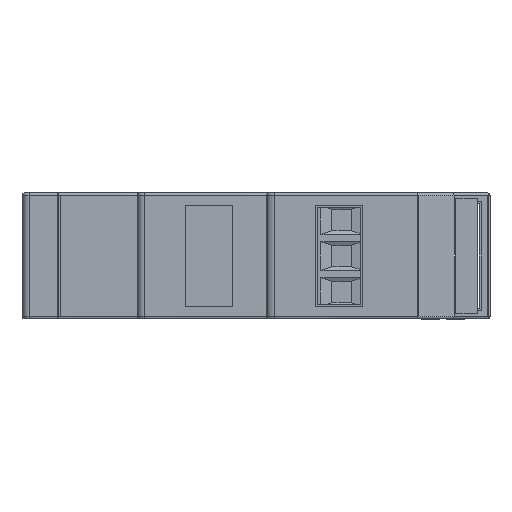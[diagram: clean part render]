
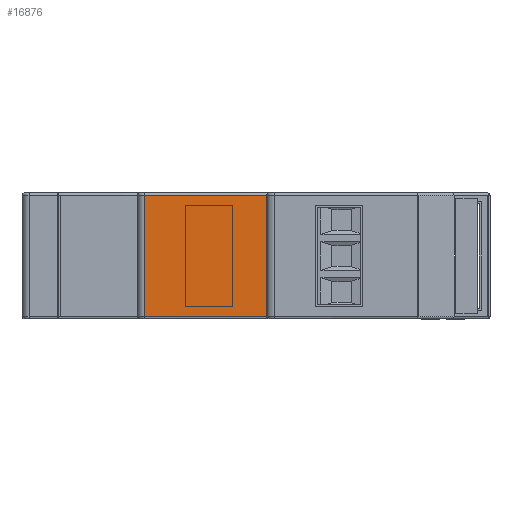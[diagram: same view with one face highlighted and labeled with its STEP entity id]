
A CAD part, left-side view. The second image highlights one B-rep face of the part: STEP entity #16876.
In plain terms, the highlighted planar face has unit normal (-1, 0, 0).
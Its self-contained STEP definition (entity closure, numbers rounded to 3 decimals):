
#11794 = CARTESIAN_POINT ( 'NONE',  ( 11., 31., 0.3 ) ) ;
#11872 = CARTESIAN_POINT ( 'NONE',  ( 11., 48., 0.3 ) ) ;
#11925 = CARTESIAN_POINT ( 'NONE',  ( 11., 48., 17.2 ) ) ;
#11991 = CARTESIAN_POINT ( 'NONE',  ( 11., 31., 17.2 ) ) ;
#16876 = ADVANCED_FACE ( 'NONE', ( #33483 ), #33468, .F. ) ;
#18858 = EDGE_LOOP ( 'NONE', ( #39896, #39892, #39894, #39886 ) ) ;
#20604 = AXIS2_PLACEMENT_3D ( 'NONE', #33493, #33494, #33495 ) ;
#21004 = VECTOR ( 'NONE', #37005, 1000. ) ;
#21095 = VECTOR ( 'NONE', #37262, 1000. ) ;
#21526 = EDGE_CURVE ( 'NONE', #31068, #30898, #36949, .T. ) ;
#21571 = EDGE_CURVE ( 'NONE', #31304, #31181, #37259, .T. ) ;
#22236 = EDGE_CURVE ( 'NONE', #31304, #30898, #30548, .T. ) ;
#23389 = EDGE_CURVE ( 'NONE', #31181, #31068, #41209, .T. ) ;
#30548 = LINE ( 'NONE', #30550, #42656 ) ;
#30550 = CARTESIAN_POINT ( 'NONE',  ( 11., 31., 17.5 ) ) ;
#30551 = DIRECTION ( 'NONE',  ( 0., 0., -1. ) ) ;
#30898 = VERTEX_POINT ( 'NONE', #11794 ) ;
#31068 = VERTEX_POINT ( 'NONE', #11872 ) ;
#31181 = VERTEX_POINT ( 'NONE', #11925 ) ;
#31304 = VERTEX_POINT ( 'NONE', #11991 ) ;
#33468 = PLANE ( 'NONE',  #20604 ) ;
#33483 = FACE_OUTER_BOUND ( 'NONE', #18858, .T. ) ;
#33493 = CARTESIAN_POINT ( 'NONE',  ( 11., 31., 17.5 ) ) ;
#33494 = DIRECTION ( 'NONE',  ( 1., 0., 0. ) ) ;
#33495 = DIRECTION ( 'NONE',  ( 0., 1., 0. ) ) ;
#36949 = LINE ( 'NONE', #37002, #21004 ) ;
#37002 = CARTESIAN_POINT ( 'NONE',  ( 11., 31., 0.3 ) ) ;
#37005 = DIRECTION ( 'NONE',  ( 0., -1., 0. ) ) ;
#37259 = LINE ( 'NONE', #37260, #21095 ) ;
#37260 = CARTESIAN_POINT ( 'NONE',  ( 11., 31., 17.2 ) ) ;
#37262 = DIRECTION ( 'NONE',  ( 0., 1., 0. ) ) ;
#39886 = ORIENTED_EDGE ( 'NONE', *, *, #21571, .T. ) ;
#39892 = ORIENTED_EDGE ( 'NONE', *, *, #21526, .T. ) ;
#39894 = ORIENTED_EDGE ( 'NONE', *, *, #22236, .F. ) ;
#39896 = ORIENTED_EDGE ( 'NONE', *, *, #23389, .T. ) ;
#41209 = LINE ( 'NONE', #41212, #44434 ) ;
#41212 = CARTESIAN_POINT ( 'NONE',  ( 11., 48., 17.5 ) ) ;
#41213 = DIRECTION ( 'NONE',  ( 0., 0., -1. ) ) ;
#42656 = VECTOR ( 'NONE', #30551, 1000. ) ;
#44434 = VECTOR ( 'NONE', #41213, 1000. ) ;
